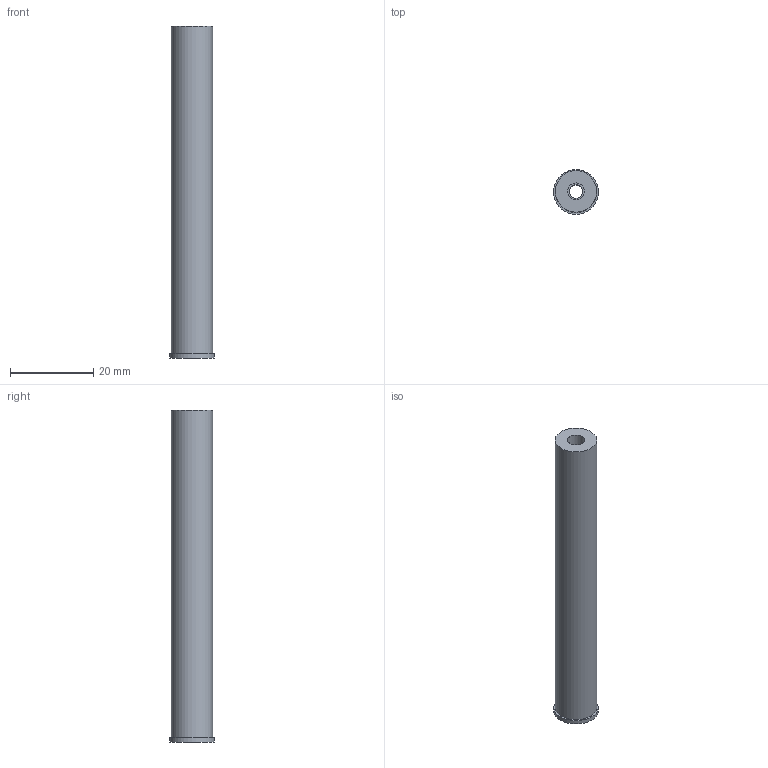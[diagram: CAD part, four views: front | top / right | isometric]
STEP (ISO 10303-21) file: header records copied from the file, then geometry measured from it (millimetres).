
FILE_DESCRIPTION(('Open CASCADE Model'),'2;1');
FILE_NAME('Open CASCADE Shape Model','2026-10-21T12:47:56',('Author'),( 'Open CASCADE'),'Open CASCADE STEP processor 7.9','Open CASCADE 7.9' ,'Unknown');
FILE_SCHEMA(('AUTOMOTIVE_DESIGN { 1 0 10303 214 1 1 1 1 }'));
Length unit declared in the file: millimetre
Products named in the file (1): Open CASCADE STEP translator 7.9 13
Bounding box: 10.8 x 10.8 x 80 mm (x, y, z)
Volume: 5584.1 mm3; surface area: 3526.4 mm2
Topology: 1 solids, 1 shells, 8 faces, 12 edges, 8 vertices
Faces by surface type: cylinder 4, plane 4
Full cylindrical faces by diameter (mm): 3.3 x1, 4.1 x1, 10 x1, 10.8 x1
Entity records: 354 total; most frequent: DIRECTION 62, CARTESIAN_POINT 53, ORIENTED_EDGE 24, PCURVE 24, DEFINITIONAL_REPRESENTATION 24, LINE 20, VECTOR 20, AXIS2_PLACEMENT_3D 17
